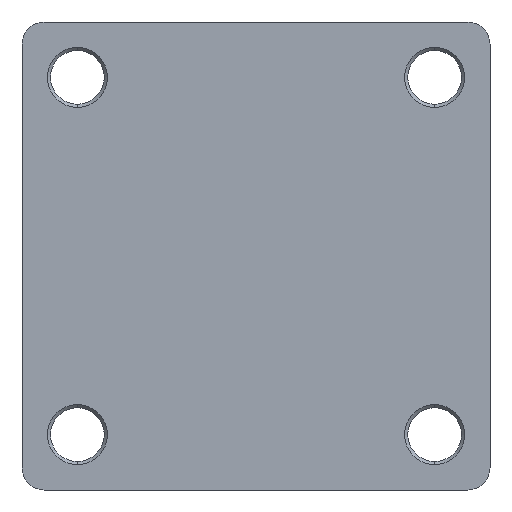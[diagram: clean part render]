
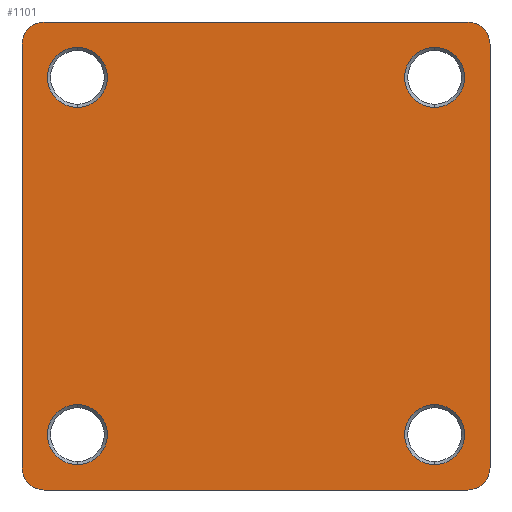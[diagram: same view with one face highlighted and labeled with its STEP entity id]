
A CAD part, left-side view. The second image highlights one B-rep face of the part: STEP entity #1101.
In plain terms, the highlighted planar face has unit normal (-1, 0, 0).
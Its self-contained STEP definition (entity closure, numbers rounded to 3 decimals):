
#18 = CARTESIAN_POINT ( 'NONE',  ( -10., 37., -33.5 ) ) ;
#42 = CARTESIAN_POINT ( 'NONE',  ( -10., 28.25, -33. ) ) ;
#46 = EDGE_CURVE ( 'NONE', #1556, #377, #1344, .T. ) ;
#49 = EDGE_CURVE ( 'NONE', #159, #252, #536, .T. ) ;
#54 = ORIENTED_EDGE ( 'NONE', *, *, #1165, .F. ) ;
#79 = VERTEX_POINT ( 'NONE', #1574 ) ;
#83 = EDGE_CURVE ( 'NONE', #102, #400, #1736, .T. ) ;
#85 = VERTEX_POINT ( 'NONE', #115 ) ;
#102 = VERTEX_POINT ( 'NONE', #1713 ) ;
#110 = EDGE_CURVE ( 'NONE', #1162, #1038, #359, .T. ) ;
#113 = AXIS2_PLACEMENT_3D ( 'NONE', #1553, #686, #1567 ) ;
#115 = CARTESIAN_POINT ( 'NONE',  ( -10., -37., 33.5 ) ) ;
#141 = FACE_OUTER_BOUND ( 'NONE', #1347, .T. ) ;
#145 = CARTESIAN_POINT ( 'NONE',  ( -10., -37., -33.5 ) ) ;
#159 = VERTEX_POINT ( 'NONE', #145 ) ;
#168 = DIRECTION ( 'NONE',  ( 0., 0., 1. ) ) ;
#189 = AXIS2_PLACEMENT_3D ( 'NONE', #680, #531, #824 ) ;
#194 = CARTESIAN_POINT ( 'NONE',  ( -10., -28.25, 28.25 ) ) ;
#196 = CIRCLE ( 'NONE', #189, 4.75 ) ;
#197 = CARTESIAN_POINT ( 'NONE',  ( -10., -33.5, 33.5 ) ) ;
#218 = DIRECTION ( 'NONE',  ( 0., 1., 0. ) ) ;
#223 = CARTESIAN_POINT ( 'NONE',  ( -10., 33.5, 37. ) ) ;
#248 = EDGE_CURVE ( 'NONE', #1038, #1162, #1414, .T. ) ;
#252 = VERTEX_POINT ( 'NONE', #1008 ) ;
#258 = AXIS2_PLACEMENT_3D ( 'NONE', #296, #842, #1859 ) ;
#278 = DIRECTION ( 'NONE',  ( -1., 0., 0. ) ) ;
#279 = AXIS2_PLACEMENT_3D ( 'NONE', #1807, #1656, #1210 ) ;
#288 = ORIENTED_EDGE ( 'NONE', *, *, #49, .F. ) ;
#296 = CARTESIAN_POINT ( 'NONE',  ( -10., -28.25, -28.25 ) ) ;
#299 = CARTESIAN_POINT ( 'NONE',  ( -10., -33.5, 37. ) ) ;
#319 = DIRECTION ( 'NONE',  ( 1., 0., 0. ) ) ;
#326 = VERTEX_POINT ( 'NONE', #478 ) ;
#340 = DIRECTION ( 'NONE',  ( -1., 0., 0. ) ) ;
#358 = ORIENTED_EDGE ( 'NONE', *, *, #83, .F. ) ;
#359 = CIRCLE ( 'NONE', #1333, 4.75 ) ;
#361 = CARTESIAN_POINT ( 'NONE',  ( -10., -28.25, 23.5 ) ) ;
#372 = EDGE_CURVE ( 'NONE', #400, #1474, #1025, .T. ) ;
#377 = VERTEX_POINT ( 'NONE', #42 ) ;
#395 = EDGE_LOOP ( 'NONE', ( #1678, #819 ) ) ;
#400 = VERTEX_POINT ( 'NONE', #18 ) ;
#411 = DIRECTION ( 'NONE',  ( 0., 0., -1. ) ) ;
#478 = CARTESIAN_POINT ( 'NONE',  ( -10., -28.25, -33. ) ) ;
#499 = EDGE_CURVE ( 'NONE', #85, #159, #1525, .T. ) ;
#509 = VECTOR ( 'NONE', #1330, 1000. ) ;
#528 = FACE_BOUND ( 'NONE', #735, .T. ) ;
#531 = DIRECTION ( 'NONE',  ( -1., 0., 0. ) ) ;
#533 = ORIENTED_EDGE ( 'NONE', *, *, #1135, .F. ) ;
#536 = CIRCLE ( 'NONE', #942, 3.5 ) ;
#542 = ORIENTED_EDGE ( 'NONE', *, *, #110, .F. ) ;
#597 = VERTEX_POINT ( 'NONE', #779 ) ;
#607 = DIRECTION ( 'NONE',  ( 0., 0., 1. ) ) ;
#680 = CARTESIAN_POINT ( 'NONE',  ( -10., 28.25, 28.25 ) ) ;
#686 = DIRECTION ( 'NONE',  ( -1., 0., 0. ) ) ;
#688 = CIRCLE ( 'NONE', #1139, 4.75 ) ;
#706 = CIRCLE ( 'NONE', #787, 4.75 ) ;
#707 = AXIS2_PLACEMENT_3D ( 'NONE', #1759, #882, #168 ) ;
#711 = VERTEX_POINT ( 'NONE', #223 ) ;
#735 = EDGE_LOOP ( 'NONE', ( #974, #542 ) ) ;
#779 = CARTESIAN_POINT ( 'NONE',  ( -10., -28.25, -23.5 ) ) ;
#785 = AXIS2_PLACEMENT_3D ( 'NONE', #194, #340, #607 ) ;
#787 = AXIS2_PLACEMENT_3D ( 'NONE', #1855, #1137, #987 ) ;
#819 = ORIENTED_EDGE ( 'NONE', *, *, #825, .F. ) ;
#824 = DIRECTION ( 'NONE',  ( 0., 0., 1. ) ) ;
#825 = EDGE_CURVE ( 'NONE', #79, #972, #196, .T. ) ;
#841 = DIRECTION ( 'NONE',  ( 1., 0., 0. ) ) ;
#842 = DIRECTION ( 'NONE',  ( -1., 0., 0. ) ) ;
#853 = VECTOR ( 'NONE', #218, 1000. ) ;
#860 = ORIENTED_EDGE ( 'NONE', *, *, #928, .F. ) ;
#882 = DIRECTION ( 'NONE',  ( -1., 0., 0. ) ) ;
#896 = CARTESIAN_POINT ( 'NONE',  ( -10., 37., -33.5 ) ) ;
#903 = ORIENTED_EDGE ( 'NONE', *, *, #46, .F. ) ;
#911 = DIRECTION ( 'NONE',  ( 0., 0., -1. ) ) ;
#918 = DIRECTION ( 'NONE',  ( 0., -1., 0. ) ) ;
#928 = EDGE_CURVE ( 'NONE', #326, #597, #1193, .T. ) ;
#942 = AXIS2_PLACEMENT_3D ( 'NONE', #1116, #968, #1850 ) ;
#952 = FACE_BOUND ( 'NONE', #1319, .T. ) ;
#968 = DIRECTION ( 'NONE',  ( 1., 0., 0. ) ) ;
#972 = VERTEX_POINT ( 'NONE', #1720 ) ;
#974 = ORIENTED_EDGE ( 'NONE', *, *, #248, .F. ) ;
#987 = DIRECTION ( 'NONE',  ( 0., 0., 1. ) ) ;
#1008 = CARTESIAN_POINT ( 'NONE',  ( -10., -33.5, -37. ) ) ;
#1019 = LINE ( 'NONE', #1510, #853 ) ;
#1025 = LINE ( 'NONE', #896, #509 ) ;
#1032 = CARTESIAN_POINT ( 'NONE',  ( -10., -28.25, 33. ) ) ;
#1038 = VERTEX_POINT ( 'NONE', #1032 ) ;
#1048 = EDGE_CURVE ( 'NONE', #597, #326, #1153, .T. ) ;
#1066 = DIRECTION ( 'NONE',  ( 0., 0., -1. ) ) ;
#1074 = ORIENTED_EDGE ( 'NONE', *, *, #372, .F. ) ;
#1089 = CIRCLE ( 'NONE', #1578, 3.5 ) ;
#1101 = ADVANCED_FACE ( 'NONE', ( #952, #1388, #1638, #528, #141 ), #1471, .F. ) ;
#1116 = CARTESIAN_POINT ( 'NONE',  ( -10., -33.5, -33.5 ) ) ;
#1134 = VECTOR ( 'NONE', #911, 1000. ) ;
#1135 = EDGE_CURVE ( 'NONE', #1802, #85, #1089, .T. ) ;
#1137 = DIRECTION ( 'NONE',  ( -1., 0., 0. ) ) ;
#1139 = AXIS2_PLACEMENT_3D ( 'NONE', #1791, #1342, #1801 ) ;
#1141 = EDGE_CURVE ( 'NONE', #1474, #711, #1245, .T. ) ;
#1153 = CIRCLE ( 'NONE', #707, 4.75 ) ;
#1160 = CARTESIAN_POINT ( 'NONE',  ( -10., -33.5, 33.5 ) ) ;
#1162 = VERTEX_POINT ( 'NONE', #361 ) ;
#1165 = EDGE_CURVE ( 'NONE', #252, #102, #1019, .T. ) ;
#1193 = CIRCLE ( 'NONE', #258, 4.75 ) ;
#1210 = DIRECTION ( 'NONE',  ( 0., 0., -1. ) ) ;
#1223 = ORIENTED_EDGE ( 'NONE', *, *, #1141, .F. ) ;
#1232 = EDGE_CURVE ( 'NONE', #377, #1556, #688, .T. ) ;
#1234 = CARTESIAN_POINT ( 'NONE',  ( -10., 37., 33.5 ) ) ;
#1245 = CIRCLE ( 'NONE', #279, 3.5 ) ;
#1254 = ORIENTED_EDGE ( 'NONE', *, *, #499, .F. ) ;
#1274 = CARTESIAN_POINT ( 'NONE',  ( -10., -28.25, 28.25 ) ) ;
#1278 = DIRECTION ( 'NONE',  ( 0., 0., 1. ) ) ;
#1319 = EDGE_LOOP ( 'NONE', ( #903, #1685 ) ) ;
#1330 = DIRECTION ( 'NONE',  ( 0., 0., 1. ) ) ;
#1333 = AXIS2_PLACEMENT_3D ( 'NONE', #1274, #278, #1278 ) ;
#1342 = DIRECTION ( 'NONE',  ( -1., 0., 0. ) ) ;
#1344 = CIRCLE ( 'NONE', #113, 4.75 ) ;
#1347 = EDGE_LOOP ( 'NONE', ( #533, #1649, #1223, #1074, #358, #54, #288, #1254 ) ) ;
#1388 = FACE_BOUND ( 'NONE', #395, .T. ) ;
#1414 = CIRCLE ( 'NONE', #785, 4.75 ) ;
#1425 = EDGE_LOOP ( 'NONE', ( #1621, #860 ) ) ;
#1449 = LINE ( 'NONE', #1798, #1519 ) ;
#1463 = DIRECTION ( 'NONE',  ( 0., 0., -1. ) ) ;
#1471 = PLANE ( 'NONE',  #1483 ) ;
#1474 = VERTEX_POINT ( 'NONE', #1234 ) ;
#1483 = AXIS2_PLACEMENT_3D ( 'NONE', #1160, #319, #1463 ) ;
#1504 = CARTESIAN_POINT ( 'NONE',  ( -10., -37., 33.5 ) ) ;
#1510 = CARTESIAN_POINT ( 'NONE',  ( -10., -33.5, -37. ) ) ;
#1519 = VECTOR ( 'NONE', #918, 1000. ) ;
#1525 = LINE ( 'NONE', #1504, #1134 ) ;
#1553 = CARTESIAN_POINT ( 'NONE',  ( -10., 28.25, -28.25 ) ) ;
#1556 = VERTEX_POINT ( 'NONE', #1721 ) ;
#1563 = EDGE_CURVE ( 'NONE', #972, #79, #706, .T. ) ;
#1567 = DIRECTION ( 'NONE',  ( 0., 0., 1. ) ) ;
#1574 = CARTESIAN_POINT ( 'NONE',  ( -10., 28.25, 23.5 ) ) ;
#1578 = AXIS2_PLACEMENT_3D ( 'NONE', #197, #1784, #1066 ) ;
#1621 = ORIENTED_EDGE ( 'NONE', *, *, #1048, .F. ) ;
#1638 = FACE_BOUND ( 'NONE', #1425, .T. ) ;
#1649 = ORIENTED_EDGE ( 'NONE', *, *, #1853, .F. ) ;
#1656 = DIRECTION ( 'NONE',  ( 1., 0., 0. ) ) ;
#1678 = ORIENTED_EDGE ( 'NONE', *, *, #1563, .F. ) ;
#1685 = ORIENTED_EDGE ( 'NONE', *, *, #1232, .F. ) ;
#1713 = CARTESIAN_POINT ( 'NONE',  ( -10., 33.5, -37. ) ) ;
#1720 = CARTESIAN_POINT ( 'NONE',  ( -10., 28.25, 33. ) ) ;
#1721 = CARTESIAN_POINT ( 'NONE',  ( -10., 28.25, -23.5 ) ) ;
#1722 = CARTESIAN_POINT ( 'NONE',  ( -10., 33.5, -33.5 ) ) ;
#1736 = CIRCLE ( 'NONE', #1760, 3.5 ) ;
#1759 = CARTESIAN_POINT ( 'NONE',  ( -10., -28.25, -28.25 ) ) ;
#1760 = AXIS2_PLACEMENT_3D ( 'NONE', #1722, #841, #411 ) ;
#1784 = DIRECTION ( 'NONE',  ( 1., 0., 0. ) ) ;
#1791 = CARTESIAN_POINT ( 'NONE',  ( -10., 28.25, -28.25 ) ) ;
#1798 = CARTESIAN_POINT ( 'NONE',  ( -10., 33.5, 37. ) ) ;
#1801 = DIRECTION ( 'NONE',  ( 0., 0., 1. ) ) ;
#1802 = VERTEX_POINT ( 'NONE', #299 ) ;
#1807 = CARTESIAN_POINT ( 'NONE',  ( -10., 33.5, 33.5 ) ) ;
#1850 = DIRECTION ( 'NONE',  ( 0., 0., -1. ) ) ;
#1853 = EDGE_CURVE ( 'NONE', #711, #1802, #1449, .T. ) ;
#1855 = CARTESIAN_POINT ( 'NONE',  ( -10., 28.25, 28.25 ) ) ;
#1859 = DIRECTION ( 'NONE',  ( 0., 0., 1. ) ) ;
